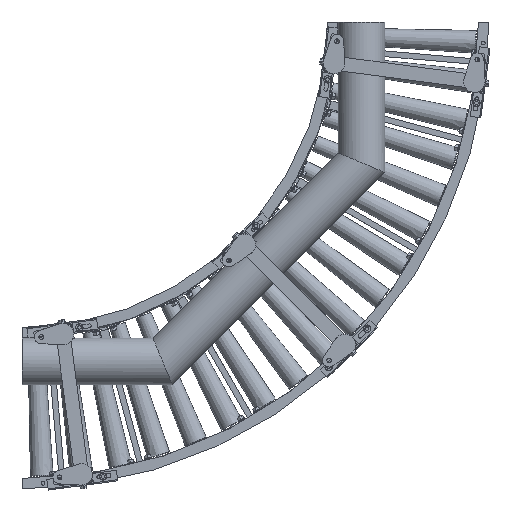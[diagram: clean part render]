
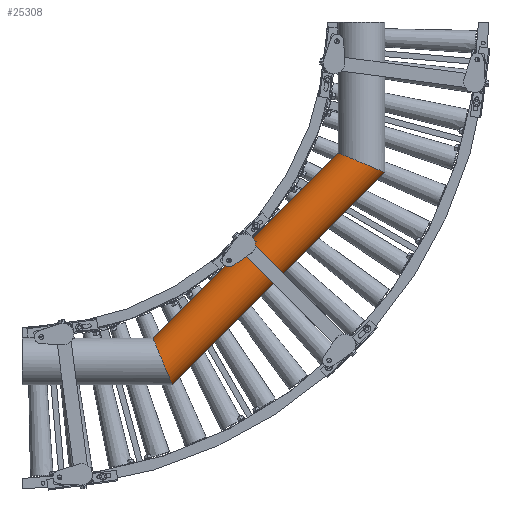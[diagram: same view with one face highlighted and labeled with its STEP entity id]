
A CAD part, front view. The second image highlights one B-rep face of the part: STEP entity #25308.
In plain terms, the highlighted cylindrical face has radius 67.024 mm (diameter 134.048 mm), a partial arc.
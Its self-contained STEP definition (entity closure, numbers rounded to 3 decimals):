
#483 = CARTESIAN_POINT ( 'NONE',  ( 1033.3, -166.5, -428.017 ) ) ;
#1676 =( BOUNDED_CURVE ( )  B_SPLINE_CURVE ( 3, ( #5327, #19026, #32735, #85716 ),
 .UNSPECIFIED., .F., .F. ) 
 B_SPLINE_CURVE_WITH_KNOTS ( ( 4, 4 ),
 ( 0.147, 2.994 ),
 .UNSPECIFIED. ) 
 CURVE ( )  GEOMETRIC_REPRESENTATION_ITEM ( )  RATIONAL_B_SPLINE_CURVE ( ( 1., 0.431, 0.431, 1. ) ) 
 REPRESENTATION_ITEM ( '' )  );
#5327 = CARTESIAN_POINT ( 'NONE',  ( 428.017, -166.5, -1033.3 ) ) ;
#6510 = VECTOR ( 'NONE', #6766, 1000. ) ;
#6766 = DIRECTION ( 'NONE',  ( -0.707, 0., -0.707 ) ) ;
#14238 = CARTESIAN_POINT ( 'NONE',  ( 915.73, -267.933, -379.317 ) ) ;
#19026 = CARTESIAN_POINT ( 'NONE',  ( 421.791, -267.933, -1018.27 ) ) ;
#19104 = VERTEX_POINT ( 'NONE', #76195 ) ;
#19589 = LINE ( 'NONE', #47039, #153762 ) ;
#25308 = ADVANCED_FACE ( 'NONE', ( #93028 ), #127045, .T. ) ;
#29069 = ORIENTED_EDGE ( 'NONE', *, *, #66648, .T. ) ;
#32735 = CARTESIAN_POINT ( 'NONE',  ( 379.317, -267.933, -915.73 ) ) ;
#33290 = DIRECTION ( 'NONE',  ( -0.707, 0., -0.707 ) ) ;
#35769 = CARTESIAN_POINT ( 'NONE',  ( 1033.3, -166.5, -428.017 ) ) ;
#37097 = ORIENTED_EDGE ( 'NONE', *, *, #170786, .F. ) ;
#38344 = CARTESIAN_POINT ( 'NONE',  ( 428.017, -166.5, -1033.3 ) ) ;
#47039 = CARTESIAN_POINT ( 'NONE',  ( 1033.3, -166.5, -428.017 ) ) ;
#54860 = VERTEX_POINT ( 'NONE', #38344 ) ;
#62118 = CARTESIAN_POINT ( 'NONE',  ( 939.538, -166.5, -334.254 ) ) ;
#66648 = EDGE_CURVE ( 'NONE', #152805, #19104, #110847, .T. ) ;
#72940 = CARTESIAN_POINT ( 'NONE',  ( 986.419, -156.676, -381.135 ) ) ;
#76195 = CARTESIAN_POINT ( 'NONE',  ( 373.092, -166.5, -900.7 ) ) ;
#79238 = AXIS2_PLACEMENT_3D ( 'NONE', #72940, #168206, #86548 ) ;
#81500 = CARTESIAN_POINT ( 'NONE',  ( 900.7, -166.5, -373.092 ) ) ;
#85716 = CARTESIAN_POINT ( 'NONE',  ( 373.092, -166.5, -900.7 ) ) ;
#86548 = DIRECTION ( 'NONE',  ( -0.707, 0., 0.707 ) ) ;
#91410 = EDGE_CURVE ( 'NONE', #115706, #54860, #19589, .T. ) ;
#93028 = FACE_OUTER_BOUND ( 'NONE', #124941, .T. ) ;
#110847 = LINE ( 'NONE', #62118, #6510 ) ;
#115706 = VERTEX_POINT ( 'NONE', #35769 ) ;
#124357 = CARTESIAN_POINT ( 'NONE',  ( 1018.27, -267.933, -421.791 ) ) ;
#124941 = EDGE_LOOP ( 'NONE', ( #130594, #149046, #29069, #37097 ) ) ;
#127045 = CYLINDRICAL_SURFACE ( 'NONE', #79238, 67.024 ) ;
#130594 = ORIENTED_EDGE ( 'NONE', *, *, #91410, .F. ) ;
#130813 =( BOUNDED_CURVE ( )  B_SPLINE_CURVE ( 3, ( #483, #124357, #14238, #81500 ),
 .UNSPECIFIED., .F., .F. ) 
 B_SPLINE_CURVE_WITH_KNOTS ( ( 4, 4 ),
 ( 0.147, 2.994 ),
 .UNSPECIFIED. ) 
 CURVE ( )  GEOMETRIC_REPRESENTATION_ITEM ( )  RATIONAL_B_SPLINE_CURVE ( ( 1., 0.431, 0.431, 1. ) ) 
 REPRESENTATION_ITEM ( '' )  );
#149046 = ORIENTED_EDGE ( 'NONE', *, *, #154327, .T. ) ;
#152805 = VERTEX_POINT ( 'NONE', #173926 ) ;
#153762 = VECTOR ( 'NONE', #33290, 1000. ) ;
#154327 = EDGE_CURVE ( 'NONE', #115706, #152805, #130813, .T. ) ;
#168206 = DIRECTION ( 'NONE',  ( -0.707, 0., -0.707 ) ) ;
#170786 = EDGE_CURVE ( 'NONE', #54860, #19104, #1676, .T. ) ;
#173926 = CARTESIAN_POINT ( 'NONE',  ( 900.7, -166.5, -373.092 ) ) ;
